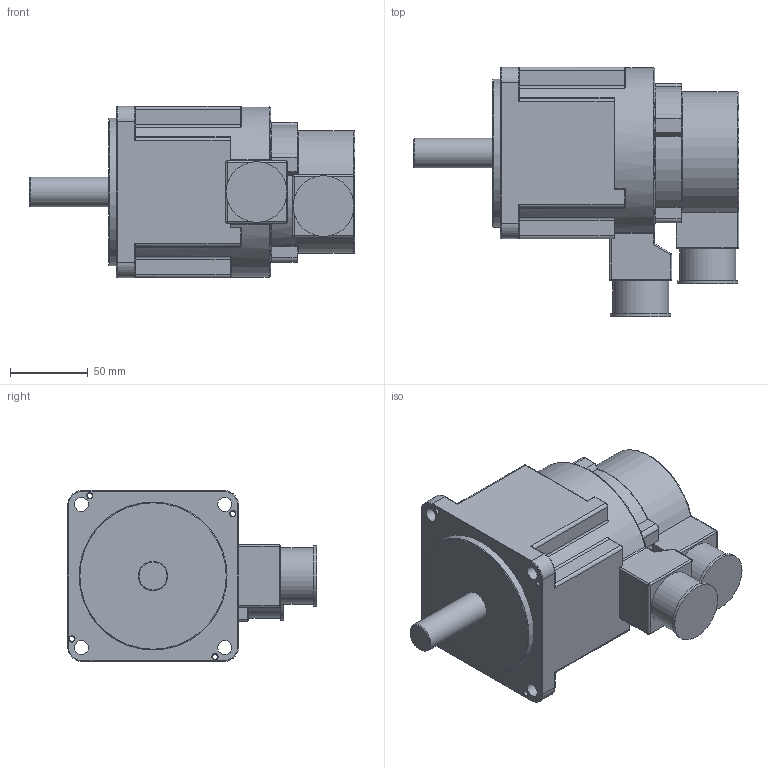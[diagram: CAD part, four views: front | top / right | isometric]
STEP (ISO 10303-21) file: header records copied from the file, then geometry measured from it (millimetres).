
FILE_DESCRIPTION(/* description */ (''),/* implementation_level */ '2;1');
FILE_NAME(/* name */ '110GSL04030(110GAL04020).stp',/* time_stamp */ '2019-11-22T14:09:32+08:00',/* author */ (''),/* organization */ (''),/* preprocessor_version */ 'ST-DEVELOPER v16',/* originating_system */ 'SIEMENS PLM Software NX 10.0',/* authorisation */ '');
FILE_SCHEMA (('CONFIG_CONTROL_DESIGN'));
Length unit declared in the file: millimetre
Products named in the file (1): 110GSL04030(110GAL04020)
Bounding box: 209 x 160 x 110 mm (x, y, z)
Volume: 1499177 mm3; surface area: 97910.9 mm2
Topology: 1 solids, 1 shells, 271 faces, 660 edges, 381 vertices
Faces by surface type: cylinder 126, plane 65, torus 44, bspline 15, sphere 11, cone 10
Full cylindrical faces by diameter (mm): 3.3 x4, 9 x4, 19 x1, 36 x2, 39 x2, 95 x1
Entity records: 8801 total; most frequent: CARTESIAN_POINT 2562, DIRECTION 1354, ORIENTED_EDGE 1226, EDGE_CURVE 613, AXIS2_PLACEMENT_3D 547, VERTEX_POINT 375, EDGE_LOOP 318, ADVANCED_FACE 271
